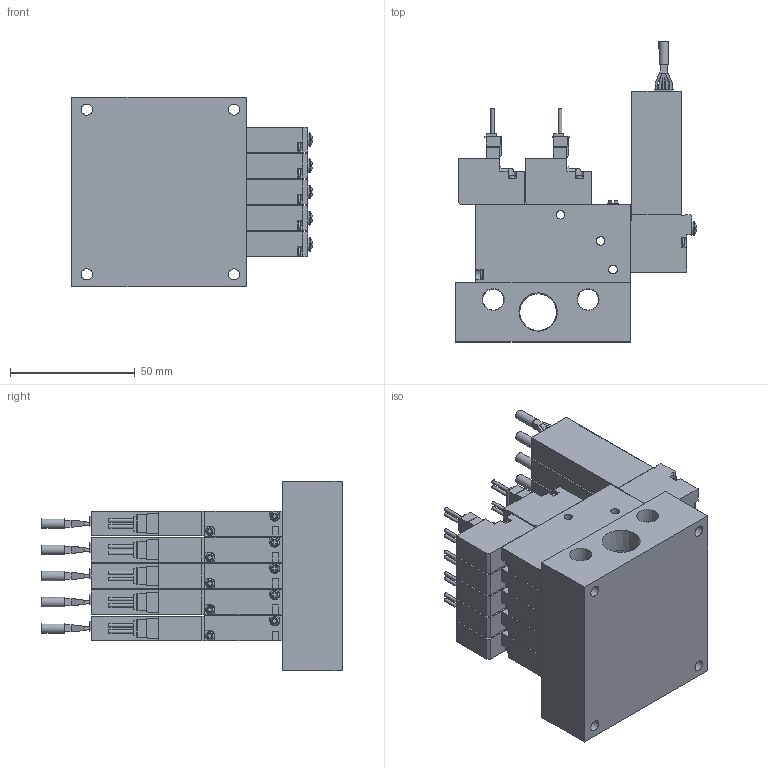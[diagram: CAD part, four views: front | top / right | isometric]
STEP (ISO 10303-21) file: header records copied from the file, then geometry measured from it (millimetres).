
FILE_DESCRIPTION(('STEP AP203'),'1');
FILE_NAME('BMPV42MV9.V9P5A(B)505.stp','2025-04-30T01:55:55',(' '),(' '),'Spatial InterOp 3D',' ',' ');
FILE_SCHEMA(('CONFIG_CONTROL_DESIGN'));
Length unit declared in the file: millimetre
Products named in the file (5): BMPV42MV9.V9P5A(B)505; VACUUM VALVE FUNCTION MPV42-A; VACUUM SENSOR MPV42-V9; UNIT-MPV42; MPV42-M50R-1
Assembly tree (21 placements, depth 2):
  BMPV42MV9.V9P5A(B)505
    VACUUM VALVE FUNCTION MPV42-A  x10
    VACUUM SENSOR MPV42-V9  x5
    UNIT-MPV42  x5
    MPV42-M50R-1
Bounding box: 96.35 x 120.3 x 76 mm (x, y, z)
Volume: 320889.6 mm3; surface area: 106941.5 mm2
Topology: 21 solids, 21 shells, 1919 faces, 5199 edges, 3442 vertices
Faces by surface type: plane 1506, cylinder 337, cone 26, torus 25, sphere 25
Full cylindrical faces by diameter (mm): 1.4 x20, 1.8 x5, 2.2 x10, 3 x20, 3.5 x55, 3.8 x5, 4.134 x10, 4.5 x4, 5 x5, 5.5 x5, 8.441 x2, 14.744 x1
Entity records: 9599 total; most frequent: CARTESIAN_POINT 1868, DIRECTION 1523, ORIENTED_EDGE 1474, EDGE_CURVE 737, LINE 551, VECTOR 551, VERTEX_POINT 513, AXIS2_PLACEMENT_3D 486
